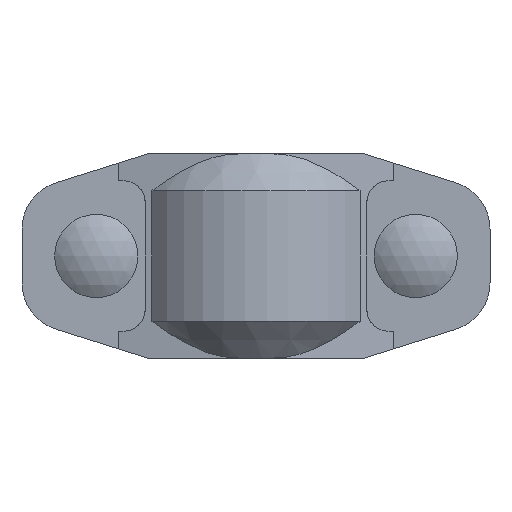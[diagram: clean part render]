
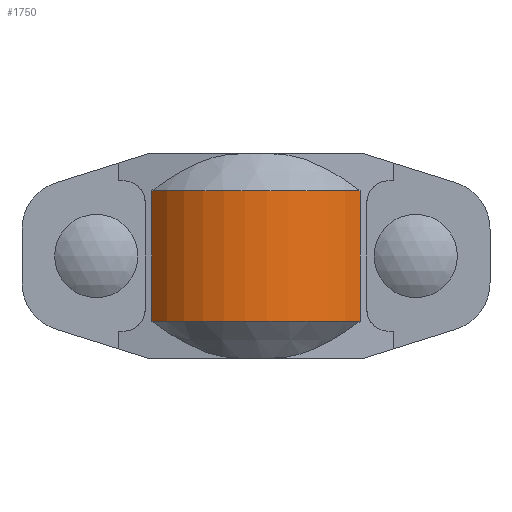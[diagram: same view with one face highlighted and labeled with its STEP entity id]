
A CAD part, front view. The second image highlights one B-rep face of the part: STEP entity #1750.
In plain terms, the highlighted cylindrical face has radius 29.972 mm (diameter 59.944 mm), a partial arc.
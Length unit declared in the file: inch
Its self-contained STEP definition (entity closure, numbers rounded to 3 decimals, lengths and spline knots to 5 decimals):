
#207=FACE_OUTER_BOUND('',#304,.T.);
#304=EDGE_LOOP('',(#1483,#1484,#1485,#1486));
#378=LINE('',#2628,#535);
#434=LINE('',#2791,#591);
#535=VECTOR('',#2109,0.3937);
#591=VECTOR('',#2241,0.3937);
#673=CIRCLE('',#1887,1.18);
#677=CIRCLE('',#1894,1.18);
#757=VERTEX_POINT('',#2623);
#758=VERTEX_POINT('',#2627);
#814=VERTEX_POINT('',#2786);
#815=VERTEX_POINT('',#2790);
#935=EDGE_CURVE('',#758,#757,#378,.T.);
#1010=EDGE_CURVE('',#815,#814,#434,.T.);
#1030=EDGE_CURVE('',#757,#815,#673,.T.);
#1037=EDGE_CURVE('',#758,#814,#677,.T.);
#1483=ORIENTED_EDGE('',*,*,#935,.T.);
#1484=ORIENTED_EDGE('',*,*,#1030,.T.);
#1485=ORIENTED_EDGE('',*,*,#1010,.T.);
#1486=ORIENTED_EDGE('',*,*,#1037,.F.);
#1582=CYLINDRICAL_SURFACE('',#1912,1.18);
#1750=ADVANCED_FACE('',(#207),#1582,.T.);
#1887=AXIS2_PLACEMENT_3D('',#2826,#2278,#2279);
#1894=AXIS2_PLACEMENT_3D('',#2840,#2295,#2296);
#1912=AXIS2_PLACEMENT_3D('',#2881,#2346,#2347);
#2109=DIRECTION('',(0.,0.,1.));
#2241=DIRECTION('',(0.,0.,-1.));
#2278=DIRECTION('center_axis',(0.,0.,-1.));
#2279=DIRECTION('ref_axis',(0.,-1.,0.));
#2295=DIRECTION('center_axis',(0.,0.,-1.));
#2296=DIRECTION('ref_axis',(0.,-1.,0.));
#2346=DIRECTION('center_axis',(0.,0.,-1.));
#2347=DIRECTION('ref_axis',(0.,-1.,0.));
#2623=CARTESIAN_POINT('',(0.93794,-0.71601,0.59));
#2627=CARTESIAN_POINT('',(0.93794,-0.71601,-0.59));
#2628=CARTESIAN_POINT('',(0.93794,-0.71601,0.));
#2786=CARTESIAN_POINT('',(-0.93794,-0.71601,-0.59));
#2790=CARTESIAN_POINT('',(-0.93794,-0.71601,0.59));
#2791=CARTESIAN_POINT('',(-0.93794,-0.71601,0.));
#2826=CARTESIAN_POINT('Origin',(0.,0.,0.59));
#2840=CARTESIAN_POINT('Origin',(0.,0.,-0.59));
#2881=CARTESIAN_POINT('Origin',(0.,0.,0.));
